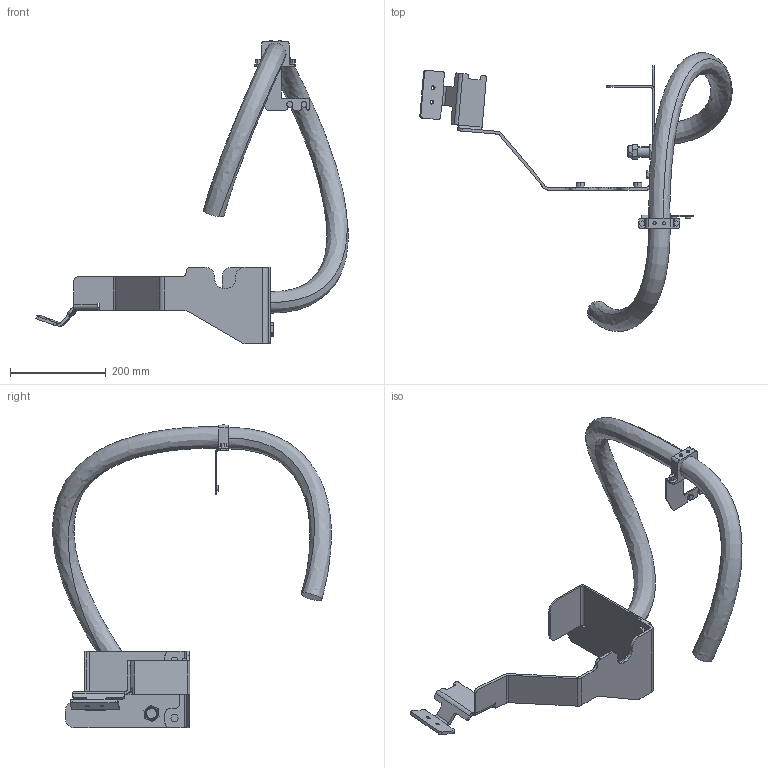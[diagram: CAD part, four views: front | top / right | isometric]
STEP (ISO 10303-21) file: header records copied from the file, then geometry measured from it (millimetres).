
FILE_DESCRIPTION (( 'STEP AP214' ), '1' );
FILE_NAME ('IRB5710-LID-MH_90kg-230_OC_00_LINK03a_CABLE.step', '2025-07-07T14:14:18', ( '' ), ( '' ), 'SwSTEP 2.0', 'SolidWorks 2024', '' );
FILE_SCHEMA (( 'AUTOMOTIVE_DESIGN' ));
Length unit declared in the file: millimetre
Products named in the file (1): IRB5710-LID-MH_90kg-230_OC_00_LINK03a_CABLE
Bounding box: 651.95 x 581.61 x 634 mm (x, y, z)
Volume: 2807227.7 mm3; surface area: 436216.3 mm2
Topology: 1 solids, 2 shells, 268 faces, 711 edges, 464 vertices
Faces by surface type: plane 156, cylinder 94, cone 12, bspline 4, torus 2
Entity records: 12356 total; most frequent: CARTESIAN_POINT 2542, DIRECTION 1459, ORIENTED_EDGE 1422, EDGE_CURVE 711, AXIS2_PLACEMENT_3D 493, VECTOR 473, LINE 473, VERTEX_POINT 464
